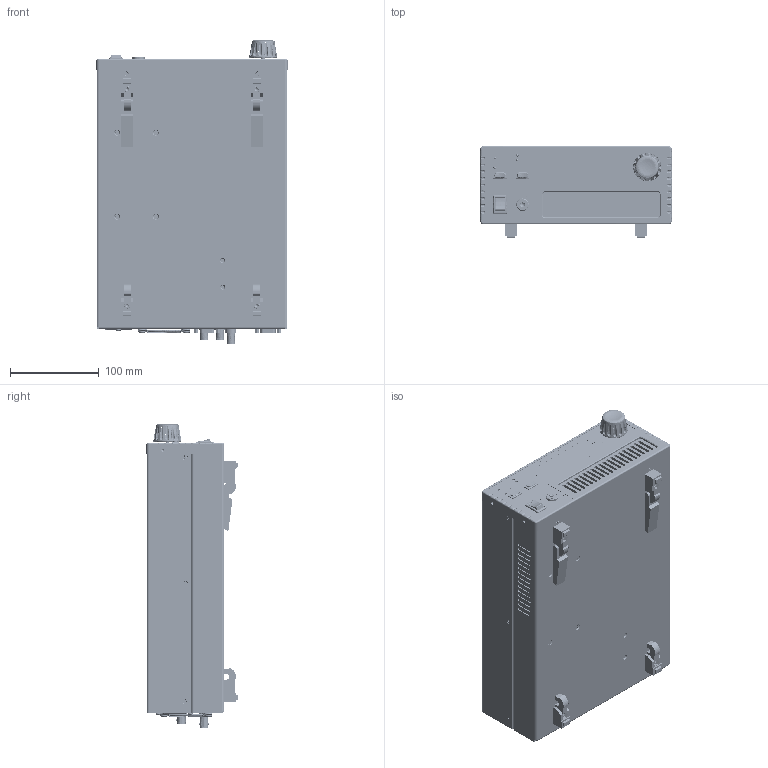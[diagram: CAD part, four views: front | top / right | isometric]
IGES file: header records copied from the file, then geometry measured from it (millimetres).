
Start section: SolidWorks IGES file using analytic representation for surfaces
Global section: file name: D:\Dropbox\Mechanical Engr\Development Projects (P)\P6 - 4300 LaserSource\4300-LaserSource.IGS; native system: SolidWorks 2010; preprocessor: SolidWorks 2010; author: Mike; date: 140119.215647; units: millimetre
Bounding box: 215.9 x 103.1 x 342.48 mm (x, y, z)
Surface area: 276670.3 mm2 (no closed solid volume)
Topology: 0 solids, 0 shells, 5136 faces, 59717 edges, 59649 vertices
Faces by surface type: bspline 4090, revolution 1046
